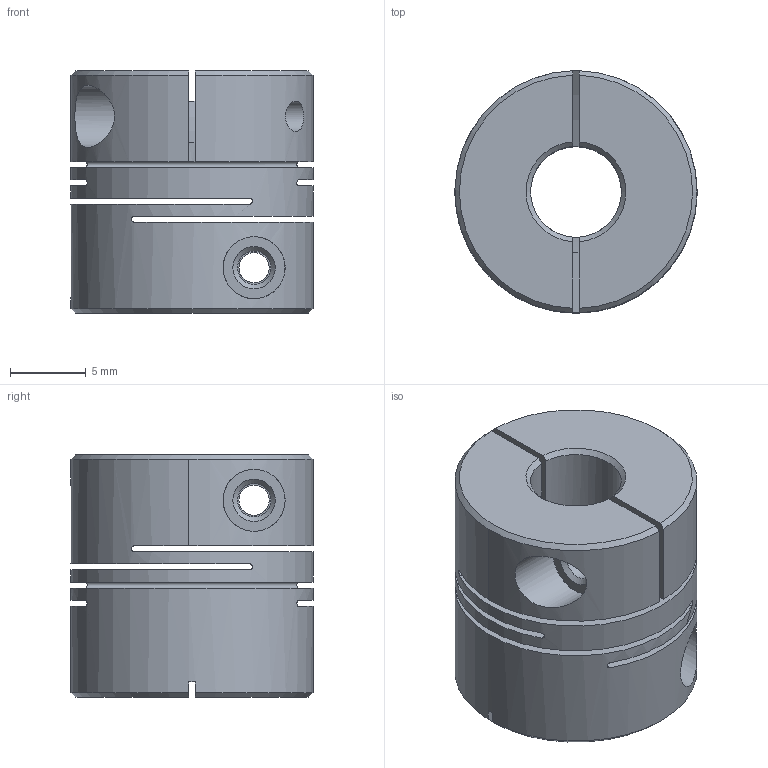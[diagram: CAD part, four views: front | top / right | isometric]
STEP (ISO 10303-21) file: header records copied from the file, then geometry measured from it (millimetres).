
FILE_DESCRIPTION( ( 'Unknown' ), '1' );
FILE_NAME( 'D:/3D/目敲傅/SRBM Type/C Type/SRBM-16C.stp', 'Unknown', ( 'Unknown' ), ( 'Unknown' ), 'XStep 1.0', 'Unknown', ' ' );
FILE_SCHEMA( ( 'CONFIG_CONTROL_DESIGN' ) );
Length unit declared in the file: millimetre
Products named in the file (1): 1
Bounding box: 16 x 16 x 16 mm (x, y, z)
Volume: 2345.8 mm3; surface area: 2700 mm2
Topology: 1 solids, 1 shells, 57 faces, 164 edges, 111 vertices
Faces by surface type: plane 24, cylinder 23, cone 10
Full cylindrical faces by diameter (mm): 2 x4, 2.2 x2, 4.1 x2, 6 x2, 7 x3, 16 x1
Entity records: 1958 total; most frequent: CARTESIAN_POINT 589, DIRECTION 264, ORIENTED_EDGE 256, EDGE_CURVE 128, AXIS2_PLACEMENT_3D 113, EDGE_LOOP 94, VERTEX_POINT 94, FACE_OUTER_BOUND 70
